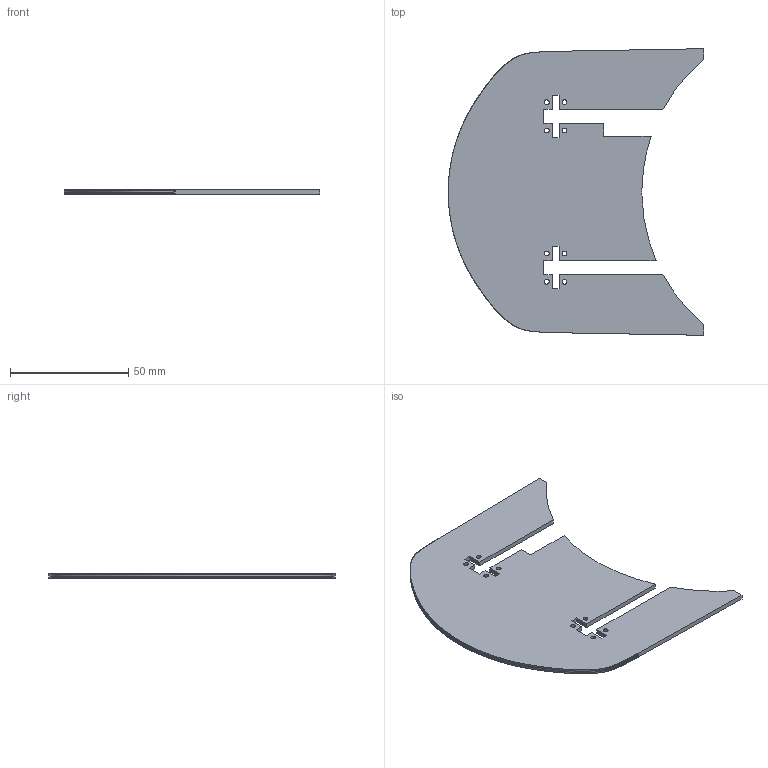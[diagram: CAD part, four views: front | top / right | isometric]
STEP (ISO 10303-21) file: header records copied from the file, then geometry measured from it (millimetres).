
FILE_DESCRIPTION(('STEP AP214'),'1');
FILE_NAME('tmp0.step','2025-05-01T21:50:09',(' '),(' '),'Spatial InterOp 3D',' ',' ');
FILE_SCHEMA(('AUTOMOTIVE_DESIGN { 1 0 10303 214 1 1 1 1 }'));
Length unit declared in the file: millimetre
Products named in the file (1): 1
Bounding box: 108.09 x 121.28 x 2 mm (x, y, z)
Volume: 17911 mm3; surface area: 19349.2 mm2
Topology: 1 solids, 1 shells, 1456 faces, 4362 edges, 2908 vertices
Faces by surface type: plane 1434, cylinder 22
Entity records: 48107 total; most frequent: CARTESIAN_POINT 8727, ORIENTED_EDGE 8724, DIRECTION 7320, EDGE_CURVE 4362, LINE 4318, VECTOR 4318, VERTEX_POINT 2908, AXIS2_PLACEMENT_3D 1501
